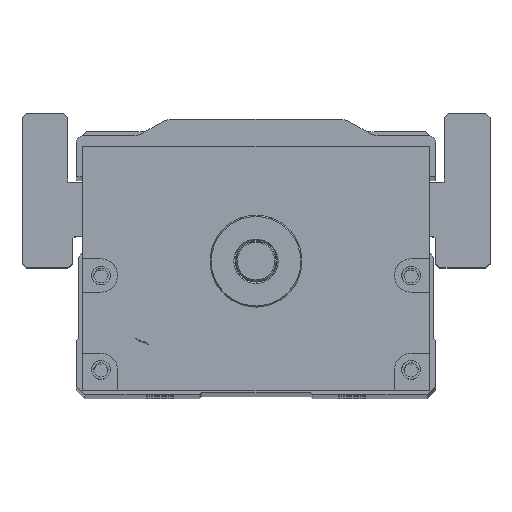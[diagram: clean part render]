
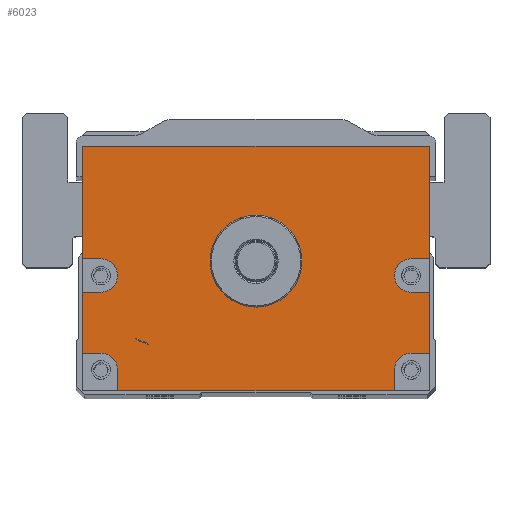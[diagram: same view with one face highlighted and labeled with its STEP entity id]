
A CAD part, top view. The second image highlights one B-rep face of the part: STEP entity #6023.
In plain terms, the highlighted planar face has unit normal (0, 0, 1).
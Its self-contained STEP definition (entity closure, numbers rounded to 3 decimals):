
#570=LINE('',#28871,#1412);
#572=LINE('',#28879,#1414);
#573=LINE('',#28882,#1415);
#574=LINE('',#28884,#1416);
#575=LINE('',#28888,#1417);
#576=LINE('',#28890,#1418);
#577=LINE('',#28891,#1419);
#578=LINE('',#28893,#1420);
#579=LINE('',#28897,#1421);
#580=LINE('',#28899,#1422);
#581=LINE('',#28901,#1423);
#582=LINE('',#28905,#1424);
#583=LINE('',#28907,#1425);
#584=LINE('',#28909,#1426);
#1412=VECTOR('',#16903,1.);
#1414=VECTOR('',#16911,1.);
#1415=VECTOR('',#16912,1.);
#1416=VECTOR('',#16913,1.);
#1417=VECTOR('',#16916,1.);
#1418=VECTOR('',#16917,1.);
#1419=VECTOR('',#16918,1.);
#1420=VECTOR('',#16919,1.);
#1421=VECTOR('',#16922,1.);
#1422=VECTOR('',#16923,1.);
#1423=VECTOR('',#16924,1.);
#1424=VECTOR('',#16927,1.);
#1425=VECTOR('',#16928,1.);
#1426=VECTOR('',#16929,1.);
#6023=ADVANCED_FACE('',(#7070,#7071),#6606,.T.);
#6606=PLANE('',#15229);
#7070=FACE_BOUND('',#7728,.T.);
#7071=FACE_BOUND('',#7729,.T.);
#7728=EDGE_LOOP('',(#9355,#9356,#9357,#9358,#9359,#9360,#9361,#9362,#9363,
#9364,#9365,#9366,#9367,#9368,#9369,#9370,#9371,#9372));
#7729=EDGE_LOOP('',(#9373));
#9355=ORIENTED_EDGE('',*,*,#13266,.F.);
#9356=ORIENTED_EDGE('',*,*,#13267,.T.);
#9357=ORIENTED_EDGE('',*,*,#13268,.F.);
#9358=ORIENTED_EDGE('',*,*,#13269,.F.);
#9359=ORIENTED_EDGE('',*,*,#13270,.F.);
#9360=ORIENTED_EDGE('',*,*,#13271,.T.);
#9361=ORIENTED_EDGE('',*,*,#13262,.T.);
#9362=ORIENTED_EDGE('',*,*,#13272,.T.);
#9363=ORIENTED_EDGE('',*,*,#13273,.F.);
#9364=ORIENTED_EDGE('',*,*,#13274,.F.);
#9365=ORIENTED_EDGE('',*,*,#13275,.F.);
#9366=ORIENTED_EDGE('',*,*,#13276,.T.);
#9367=ORIENTED_EDGE('',*,*,#13277,.F.);
#9368=ORIENTED_EDGE('',*,*,#13278,.F.);
#9369=ORIENTED_EDGE('',*,*,#13279,.F.);
#9370=ORIENTED_EDGE('',*,*,#13280,.T.);
#9371=ORIENTED_EDGE('',*,*,#13281,.F.);
#9372=ORIENTED_EDGE('',*,*,#13282,.F.);
#9373=ORIENTED_EDGE('',*,*,#13248,.T.);
#11970=VERTEX_POINT('',#28842);
#11983=VERTEX_POINT('',#28870);
#11984=VERTEX_POINT('',#28872);
#11987=VERTEX_POINT('',#28880);
#11988=VERTEX_POINT('',#28881);
#11989=VERTEX_POINT('',#28883);
#11990=VERTEX_POINT('',#28885);
#11991=VERTEX_POINT('',#28887);
#11992=VERTEX_POINT('',#28889);
#11993=VERTEX_POINT('',#28892);
#11994=VERTEX_POINT('',#28894);
#11995=VERTEX_POINT('',#28896);
#11996=VERTEX_POINT('',#28898);
#11997=VERTEX_POINT('',#28900);
#11998=VERTEX_POINT('',#28902);
#11999=VERTEX_POINT('',#28904);
#12000=VERTEX_POINT('',#28906);
#12001=VERTEX_POINT('',#28908);
#12002=VERTEX_POINT('',#28910);
#13248=EDGE_CURVE('',#11970,#11970,#14546,.T.);
#13262=EDGE_CURVE('',#11984,#11983,#570,.T.);
#13266=EDGE_CURVE('',#11987,#11988,#572,.T.);
#13267=EDGE_CURVE('',#11987,#11989,#573,.T.);
#13268=EDGE_CURVE('',#11990,#11989,#574,.T.);
#13269=EDGE_CURVE('',#11991,#11990,#14557,.T.);
#13270=EDGE_CURVE('',#11992,#11991,#575,.T.);
#13271=EDGE_CURVE('',#11992,#11984,#576,.T.);
#13272=EDGE_CURVE('',#11983,#11993,#577,.T.);
#13273=EDGE_CURVE('',#11994,#11993,#578,.T.);
#13274=EDGE_CURVE('',#11995,#11994,#14558,.T.);
#13275=EDGE_CURVE('',#11996,#11995,#579,.T.);
#13276=EDGE_CURVE('',#11996,#11997,#580,.T.);
#13277=EDGE_CURVE('',#11998,#11997,#581,.T.);
#13278=EDGE_CURVE('',#11999,#11998,#14559,.T.);
#13279=EDGE_CURVE('',#12000,#11999,#582,.T.);
#13280=EDGE_CURVE('',#12000,#12001,#583,.T.);
#13281=EDGE_CURVE('',#12002,#12001,#584,.T.);
#13282=EDGE_CURVE('',#11988,#12002,#14560,.T.);
#14546=CIRCLE('',#15211,11.);
#14557=CIRCLE('',#15225,4.);
#14558=CIRCLE('',#15226,4.);
#14559=CIRCLE('',#15227,4.);
#14560=CIRCLE('',#15228,4.);
#15211=AXIS2_PLACEMENT_3D('',#28841,#16876,#16877);
#15225=AXIS2_PLACEMENT_3D('',#28886,#16914,#16915);
#15226=AXIS2_PLACEMENT_3D('',#28895,#16920,#16921);
#15227=AXIS2_PLACEMENT_3D('',#28903,#16925,#16926);
#15228=AXIS2_PLACEMENT_3D('',#28911,#16930,#16931);
#15229=AXIS2_PLACEMENT_3D('',#28912,#16932,#16933);
#16876=DIRECTION('',(0.,0.,-1.));
#16877=DIRECTION('',(1.,0.,0.));
#16903=DIRECTION('',(-1.,0.,0.));
#16911=DIRECTION('',(-1.,0.,0.));
#16912=DIRECTION('',(0.,1.,0.));
#16913=DIRECTION('',(1.,0.,0.));
#16914=DIRECTION('',(0.,0.,1.));
#16915=DIRECTION('',(1.,0.,0.));
#16916=DIRECTION('',(-1.,0.,0.));
#16917=DIRECTION('',(0.,1.,0.));
#16918=DIRECTION('',(0.,-1.,0.));
#16919=DIRECTION('',(-1.,0.,0.));
#16920=DIRECTION('',(0.,0.,1.));
#16921=DIRECTION('',(1.,0.,0.));
#16922=DIRECTION('',(1.,0.,0.));
#16923=DIRECTION('',(0.,-1.,0.));
#16924=DIRECTION('',(-1.,0.,0.));
#16925=DIRECTION('',(0.,0.,1.));
#16926=DIRECTION('',(1.,0.,0.));
#16927=DIRECTION('',(0.,1.,0.));
#16928=DIRECTION('',(1.,0.,0.));
#16929=DIRECTION('',(0.,-1.,0.));
#16930=DIRECTION('',(0.,0.,1.));
#16931=DIRECTION('',(1.,0.,0.));
#16932=DIRECTION('',(0.,0.,1.));
#16933=DIRECTION('',(1.,0.,0.));
#28841=CARTESIAN_POINT('',(450.,0.,382.5));
#28842=CARTESIAN_POINT('',(461.,0.,382.5));
#28870=CARTESIAN_POINT('',(408.5,27.5,382.5));
#28871=CARTESIAN_POINT('',(491.5,27.5,382.5));
#28872=CARTESIAN_POINT('',(491.5,27.5,382.5));
#28879=CARTESIAN_POINT('',(491.5,-22.,382.5));
#28880=CARTESIAN_POINT('',(491.5,-22.,382.5));
#28881=CARTESIAN_POINT('',(487.115,-22.,382.5));
#28882=CARTESIAN_POINT('',(491.5,-31.,382.5));
#28883=CARTESIAN_POINT('',(491.5,-7.431,382.5));
#28884=CARTESIAN_POINT('',(491.5,-7.431,382.5));
#28885=CARTESIAN_POINT('',(487.115,-7.431,382.5));
#28886=CARTESIAN_POINT('',(487.115,-3.431,382.5));
#28887=CARTESIAN_POINT('',(487.115,0.569,382.5));
#28888=CARTESIAN_POINT('',(491.5,0.569,382.5));
#28889=CARTESIAN_POINT('',(491.5,0.569,382.5));
#28890=CARTESIAN_POINT('',(491.5,-31.,382.5));
#28891=CARTESIAN_POINT('',(408.5,27.5,382.5));
#28892=CARTESIAN_POINT('',(408.5,0.569,382.5));
#28893=CARTESIAN_POINT('',(491.5,0.569,382.5));
#28894=CARTESIAN_POINT('',(412.885,0.569,382.5));
#28895=CARTESIAN_POINT('',(412.885,-3.431,382.5));
#28896=CARTESIAN_POINT('',(412.885,-7.431,382.5));
#28897=CARTESIAN_POINT('',(491.5,-7.431,382.5));
#28898=CARTESIAN_POINT('',(408.5,-7.431,382.5));
#28899=CARTESIAN_POINT('',(408.5,27.5,382.5));
#28900=CARTESIAN_POINT('',(408.5,-22.,382.5));
#28901=CARTESIAN_POINT('',(491.5,-22.,382.5));
#28902=CARTESIAN_POINT('',(412.885,-22.,382.5));
#28903=CARTESIAN_POINT('',(412.885,-26.,382.5));
#28904=CARTESIAN_POINT('',(416.885,-26.,382.5));
#28905=CARTESIAN_POINT('',(416.885,-31.,382.5));
#28906=CARTESIAN_POINT('',(416.885,-31.,382.5));
#28907=CARTESIAN_POINT('',(408.5,-31.,382.5));
#28908=CARTESIAN_POINT('',(483.115,-31.,382.5));
#28909=CARTESIAN_POINT('',(483.115,-31.,382.5));
#28910=CARTESIAN_POINT('',(483.115,-26.,382.5));
#28911=CARTESIAN_POINT('',(487.115,-26.,382.5));
#28912=CARTESIAN_POINT('',(491.5,-31.,382.5));
